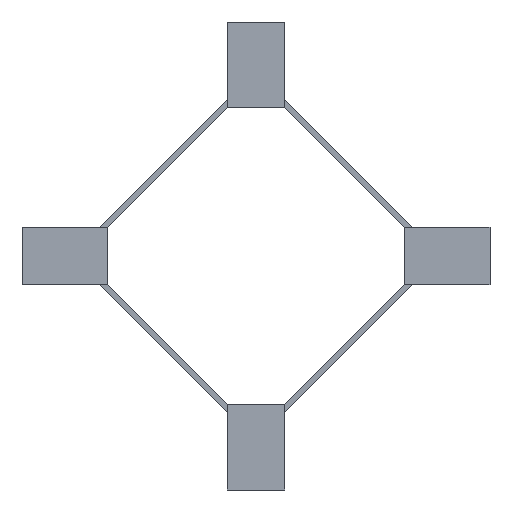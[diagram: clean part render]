
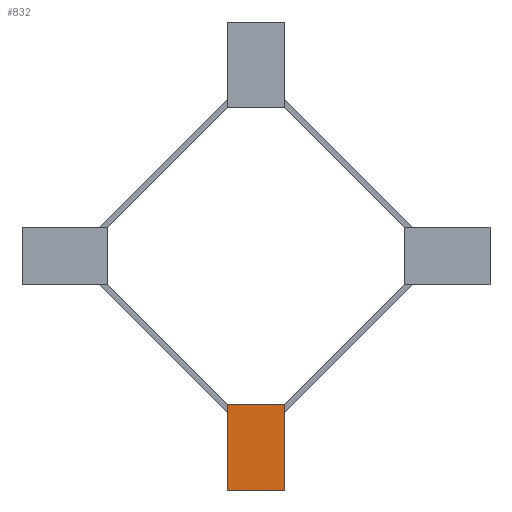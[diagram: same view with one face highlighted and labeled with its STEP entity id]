
A CAD part, front view. The second image highlights one B-rep face of the part: STEP entity #832.
In plain terms, the highlighted planar face has unit normal (0, -1, 0).
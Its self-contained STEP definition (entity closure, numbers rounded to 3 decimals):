
#1=DIRECTION('',(0.,0.,1.));
#2=VECTOR('',#1,120.);
#3=CARTESIAN_POINT('',(-40.,0.,-327.5));
#4=LINE('',#3,#2);
#5=DIRECTION('',(1.,0.,0.));
#6=VECTOR('',#5,80.);
#7=CARTESIAN_POINT('',(-40.,0.,-207.5));
#8=LINE('',#7,#6);
#9=DIRECTION('',(0.,0.,-1.));
#10=VECTOR('',#9,120.);
#11=CARTESIAN_POINT('',(40.,0.,-207.5));
#12=LINE('',#11,#10);
#13=DIRECTION('',(-1.,0.,0.));
#14=VECTOR('',#13,80.);
#15=CARTESIAN_POINT('',(40.,0.,-327.5));
#16=LINE('',#15,#14);
#625=CARTESIAN_POINT('',(-40.,0.,-327.5));
#626=CARTESIAN_POINT('',(-40.,0.,-207.5));
#627=VERTEX_POINT('',#625);
#628=VERTEX_POINT('',#626);
#629=CARTESIAN_POINT('',(40.,0.,-207.5));
#630=VERTEX_POINT('',#629);
#631=CARTESIAN_POINT('',(40.,0.,-327.5));
#632=VERTEX_POINT('',#631);
#817=CARTESIAN_POINT('',(0.,0.,0.));
#818=DIRECTION('',(0.,1.,0.));
#819=DIRECTION('',(1.,0.,0.));
#820=AXIS2_PLACEMENT_3D('',#817,#818,#819);
#821=PLANE('',#820);
#823=ORIENTED_EDGE('',*,*,#822,.T.);
#825=ORIENTED_EDGE('',*,*,#824,.T.);
#827=ORIENTED_EDGE('',*,*,#826,.T.);
#829=ORIENTED_EDGE('',*,*,#828,.T.);
#830=EDGE_LOOP('',(#823,#825,#827,#829));
#831=FACE_OUTER_BOUND('',#830,.F.);
#832=ADVANCED_FACE('',(#831),#821,.F.);
#822=EDGE_CURVE('',#627,#628,#4,.T.);
#824=EDGE_CURVE('',#628,#630,#8,.T.);
#826=EDGE_CURVE('',#630,#632,#12,.T.);
#828=EDGE_CURVE('',#632,#627,#16,.T.);
